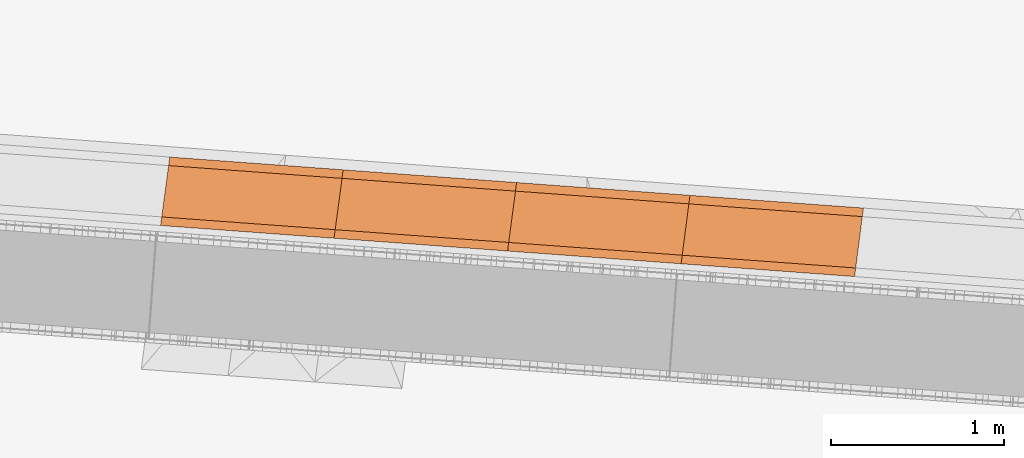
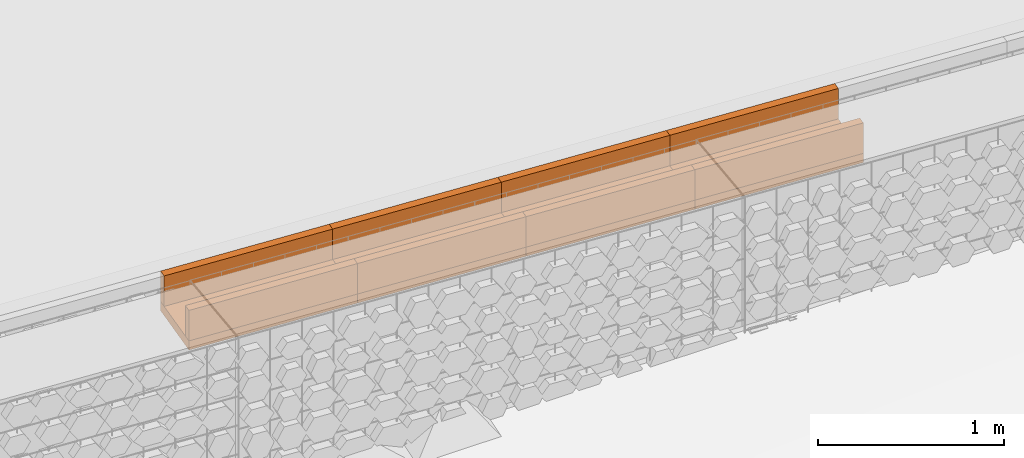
# Not in any storey, part 27 of 45: 12 proxies.
"""IFC4 model written with IfcOpenShell, lengths in metres."""

from ifc_helpers import new_model, si_unit, direction, frame, origin_with_axes, place, context, subcontext, project, spatial, polygons, material, element, save


model = new_model("IFC4")

# Units and contexts
model_context = context("Model", 3, precision=1e-05, world=origin_with_axes(), true_north=direction((0.0, 1.0)))
body_context = subcontext(model_context, "Body", "Model", "MODEL_VIEW")
ifc_project = project(units=[si_unit("VOLUMEUNIT", "CUBIC_METRE"), si_unit("LENGTHUNIT", "METRE"), si_unit("AREAUNIT", "SQUARE_METRE")], contexts=[model_context])

# Site
site_placement = place(None, origin_with_axes())
site = spatial("IfcSite", under=ifc_project, at=site_placement, Name="Lares · Rua das Mercês · artigo 4771")

# Proxies
ifc_material = material(Name="Caleiras · betão", Category="concrete")
proxy_1_placement = place(site_placement, frame((0.0, 0.0, 0.0), z_axis=(0.0, 0.0, 1.0), x_axis=(1.0, -1.03767253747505e-17, 0.0)))
element("IfcBuildingElementProxy", 1, at=proxy_1_placement, inside=site, material=ifc_material, Name="Acesso · canal lateral", ObjectType="Acesso · canal lateral", PredefinedType="USERDEFINED", context=body_context, shape_type="Tessellation", body=[
    polygons([(58.6276260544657, 1.86048415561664, 15.23), (58.6806627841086, 2.25695244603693, 15.23), (59.6853417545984, 2.18307205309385, 15.231), (59.6323050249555, 1.78660376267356, 15.231), (58.6276260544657, 1.86048415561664, 15.29), (58.6806627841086, 2.25695244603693, 15.29), (59.6853417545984, 2.18307205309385, 15.291), (59.6323050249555, 1.78660376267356, 15.291)], [[[4, 3, 2, 1]], [[5, 6, 7, 8]], [[1, 2, 6, 5]], [[2, 3, 7, 6]], [[3, 4, 8, 7]], [[4, 1, 5, 8]]]),
])
proxy_2_placement = place(site_placement, frame((0.0, 0.0, 0.0), z_axis=(0.0, 0.0, 1.0), x_axis=(1.0, -1.03767253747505e-17, 0.0)))
element("IfcBuildingElementProxy", 2, at=proxy_2_placement, inside=site, material=ifc_material, Name="Acesso · canal lateral", ObjectType="Acesso · canal lateral", PredefinedType="USERDEFINED", context=body_context, shape_type="Tessellation", body=[
    polygons([(58.6276260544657, 1.86048415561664, 15.29), (58.6342556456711, 1.91004269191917, 15.29), (59.6389346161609, 1.8361622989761, 15.291), (59.6323050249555, 1.78660376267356, 15.291), (58.6276260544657, 1.86048415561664, 15.49), (58.6342556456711, 1.91004269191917, 15.49), (59.6389346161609, 1.8361622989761, 15.491), (59.6323050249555, 1.78660376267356, 15.491)], [[[4, 3, 2, 1]], [[5, 6, 7, 8]], [[1, 2, 6, 5]], [[2, 3, 7, 6]], [[3, 4, 8, 7]], [[4, 1, 5, 8]]]),
])
proxy_3_placement = place(site_placement, frame((0.0, 0.0, 0.0), z_axis=(0.0, 0.0, 1.0), x_axis=(1.0, -1.03767253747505e-17, 0.0)))
element("IfcBuildingElementProxy", 3, at=proxy_3_placement, inside=site, material=ifc_material, Name="Acesso · canal lateral", ObjectType="Acesso · canal lateral", PredefinedType="USERDEFINED", context=body_context, shape_type="Tessellation", body=[
    polygons([(58.6740331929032, 2.20739390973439, 15.29), (58.6806627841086, 2.25695244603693, 15.29), (59.6853417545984, 2.18307205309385, 15.291), (59.678712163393, 2.13351351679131, 15.291), (58.6740331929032, 2.20739390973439, 15.49), (58.6806627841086, 2.25695244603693, 15.49), (59.6853417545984, 2.18307205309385, 15.491), (59.678712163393, 2.13351351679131, 15.491)], [[[4, 3, 2, 1]], [[5, 6, 7, 8]], [[1, 2, 6, 5]], [[2, 3, 7, 6]], [[3, 4, 8, 7]], [[4, 1, 5, 8]]]),
])
proxy_4_placement = place(site_placement, frame((0.0, 0.0, 0.0), z_axis=(0.0, 0.0, 1.0), x_axis=(1.0, -1.03767253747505e-17, 0.0)))
element("IfcBuildingElementProxy", 4, at=proxy_4_placement, inside=site, material=ifc_material, Name="Acesso · canal lateral", ObjectType="Acesso · canal lateral", PredefinedType="USERDEFINED", context=body_context, shape_type="Tessellation", body=[
    polygons([(59.6325935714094, 1.78656537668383, 15.231), (59.6850532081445, 2.18311043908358, 15.231), (60.689742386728, 2.10922924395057, 15.232), (60.637282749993, 1.71268418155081, 15.232), (59.6325935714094, 1.78656537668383, 15.291), (59.6850532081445, 2.18311043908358, 15.291), (60.689742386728, 2.10922924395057, 15.292), (60.637282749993, 1.71268418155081, 15.292)], [[[4, 3, 2, 1]], [[5, 6, 7, 8]], [[1, 2, 6, 5]], [[2, 3, 7, 6]], [[3, 4, 8, 7]], [[4, 1, 5, 8]]]),
])
proxy_5_placement = place(site_placement, frame((0.0, 0.0, 0.0), z_axis=(0.0, 0.0, 1.0), x_axis=(1.0, -1.03767253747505e-17, 0.0)))
element("IfcBuildingElementProxy", 5, at=proxy_5_placement, inside=site, material=ifc_material, Name="Acesso · canal lateral", ObjectType="Acesso · canal lateral", PredefinedType="USERDEFINED", context=body_context, shape_type="Tessellation", body=[
    polygons([(59.6325935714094, 1.78656537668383, 15.291), (59.6391510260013, 1.8361335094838, 15.291), (60.6438402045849, 1.76225231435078, 15.292), (60.637282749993, 1.71268418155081, 15.292), (59.6325935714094, 1.78656537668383, 15.491), (59.6391510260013, 1.8361335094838, 15.491), (60.6438402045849, 1.76225231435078, 15.492), (60.637282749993, 1.71268418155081, 15.492)], [[[4, 3, 2, 1]], [[5, 6, 7, 8]], [[1, 2, 6, 5]], [[2, 3, 7, 6]], [[3, 4, 8, 7]], [[4, 1, 5, 8]]]),
])
proxy_6_placement = place(site_placement, frame((0.0, 0.0, 0.0), z_axis=(0.0, 0.0, 1.0), x_axis=(1.0, -1.03767253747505e-17, 0.0)))
element("IfcBuildingElementProxy", 6, at=proxy_6_placement, inside=site, material=ifc_material, Name="Acesso · canal lateral", ObjectType="Acesso · canal lateral", PredefinedType="USERDEFINED", context=body_context, shape_type="Tessellation", body=[
    polygons([(59.6784957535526, 2.13354230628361, 15.291), (59.6850532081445, 2.18311043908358, 15.291), (60.689742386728, 2.10922924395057, 15.292), (60.6831849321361, 2.0596611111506, 15.292), (59.6784957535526, 2.13354230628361, 15.491), (59.6850532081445, 2.18311043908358, 15.491), (60.689742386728, 2.10922924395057, 15.492), (60.6831849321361, 2.0596611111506, 15.492)], [[[4, 3, 2, 1]], [[5, 6, 7, 8]], [[1, 2, 6, 5]], [[2, 3, 7, 6]], [[3, 4, 8, 7]], [[4, 1, 5, 8]]]),
])
proxy_7_placement = place(site_placement, frame((0.0, 0.0, 0.0), z_axis=(0.0, 0.0, 1.0), x_axis=(1.0, -1.03767253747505e-17, 0.0)))
element("IfcBuildingElementProxy", 7, at=proxy_7_placement, inside=site, material=ifc_material, Name="Acesso · canal lateral", ObjectType="Acesso · canal lateral", PredefinedType="USERDEFINED", context=body_context, shape_type="Tessellation", body=[
    polygons([(60.6375793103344, 1.71264517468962, 15.232), (60.6894458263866, 2.10926825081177, 15.232), (61.6941456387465, 2.03538624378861, 15.233), (61.6422791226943, 1.63876316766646, 15.233), (60.6375793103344, 1.71264517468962, 15.292), (60.6894458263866, 2.10926825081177, 15.292), (61.6941456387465, 2.03538624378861, 15.293), (61.6422791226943, 1.63876316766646, 15.293)], [[[4, 3, 2, 1]], [[5, 6, 7, 8]], [[1, 2, 6, 5]], [[2, 3, 7, 6]], [[3, 4, 8, 7]], [[4, 1, 5, 8]]]),
])
proxy_8_placement = place(site_placement, frame((0.0, 0.0, 0.0), z_axis=(0.0, 0.0, 1.0), x_axis=(1.0, -1.03767253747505e-17, 0.0)))
element("IfcBuildingElementProxy", 8, at=proxy_8_placement, inside=site, material=ifc_material, Name="Acesso · canal lateral", ObjectType="Acesso · canal lateral", PredefinedType="USERDEFINED", context=body_context, shape_type="Tessellation", body=[
    polygons([(60.6375793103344, 1.71264517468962, 15.292), (60.6440626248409, 1.76222305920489, 15.292), (61.6487624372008, 1.68834105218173, 15.293), (61.6422791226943, 1.63876316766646, 15.293), (60.6375793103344, 1.71264517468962, 15.492), (60.6440626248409, 1.76222305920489, 15.492), (61.6487624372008, 1.68834105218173, 15.493), (61.6422791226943, 1.63876316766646, 15.493)], [[[4, 3, 2, 1]], [[5, 6, 7, 8]], [[1, 2, 6, 5]], [[2, 3, 7, 6]], [[3, 4, 8, 7]], [[4, 1, 5, 8]]]),
])
proxy_9_placement = place(site_placement, frame((0.0, 0.0, 0.0), z_axis=(0.0, 0.0, 1.0), x_axis=(1.0, -1.03767253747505e-17, 0.0)))
element("IfcBuildingElementProxy", 9, at=proxy_9_placement, inside=site, material=ifc_material, Name="Acesso · canal lateral", ObjectType="Acesso · canal lateral", PredefinedType="USERDEFINED", context=body_context, shape_type="Tessellation", body=[
    polygons([(60.6829625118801, 2.0596903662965, 15.292), (60.6894458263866, 2.10926825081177, 15.292), (61.6941456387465, 2.03538624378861, 15.293), (61.68766232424, 1.98580835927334, 15.293), (60.6829625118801, 2.0596903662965, 15.492), (60.6894458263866, 2.10926825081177, 15.492), (61.6941456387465, 2.03538624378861, 15.493), (61.68766232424, 1.98580835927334, 15.493)], [[[4, 3, 2, 1]], [[5, 6, 7, 8]], [[1, 2, 6, 5]], [[2, 3, 7, 6]], [[3, 4, 8, 7]], [[4, 1, 5, 8]]]),
])
proxy_10_placement = place(site_placement, frame((0.0, 0.0, 0.0), z_axis=(0.0, 0.0, 1.0), x_axis=(1.0, -1.03767253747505e-17, 0.0)))
element("IfcBuildingElementProxy", 10, at=proxy_10_placement, inside=site, material=ifc_material, Name="Acesso · canal lateral", ObjectType="Acesso · canal lateral", PredefinedType="USERDEFINED", context=body_context, shape_type="Tessellation", body=[
    polygons([(61.6425840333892, 1.63872353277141, 15.233), (61.6938407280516, 2.03542587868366, 15.233), (62.6985516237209, 1.9615430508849, 15.234), (62.6472949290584, 1.56484070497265, 15.234), (61.6425840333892, 1.63872353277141, 15.293), (61.6938407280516, 2.03542587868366, 15.293), (62.6985516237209, 1.9615430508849, 15.294), (62.6472949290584, 1.56484070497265, 15.294)], [[[4, 3, 2, 1]], [[5, 6, 7, 8]], [[1, 2, 6, 5]], [[2, 3, 7, 6]], [[3, 4, 8, 7]], [[4, 1, 5, 8]]]),
])
proxy_11_placement = place(site_placement, frame((0.0, 0.0, 0.0), z_axis=(0.0, 0.0, 1.0), x_axis=(1.0, -1.03767253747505e-17, 0.0)))
element("IfcBuildingElementProxy", 11, at=proxy_11_placement, inside=site, material=ifc_material, Name="Acesso · canal lateral", ObjectType="Acesso · canal lateral", PredefinedType="USERDEFINED", context=body_context, shape_type="Tessellation", body=[
    polygons([(61.6425840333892, 1.63872353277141, 15.293), (61.648991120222, 1.68831132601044, 15.293), (62.6537020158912, 1.61442849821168, 15.294), (62.6472949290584, 1.56484070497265, 15.294), (61.6425840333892, 1.63872353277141, 15.493), (61.648991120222, 1.68831132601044, 15.493), (62.6537020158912, 1.61442849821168, 15.494), (62.6472949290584, 1.56484070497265, 15.494)], [[[4, 3, 2, 1]], [[5, 6, 7, 8]], [[1, 2, 6, 5]], [[2, 3, 7, 6]], [[3, 4, 8, 7]], [[4, 1, 5, 8]]]),
])
proxy_12_placement = place(site_placement, frame((0.0, 0.0, 0.0), z_axis=(0.0, 0.0, 1.0), x_axis=(1.0, -1.03767253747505e-17, 0.0)))
element("IfcBuildingElementProxy", 12, at=proxy_12_placement, inside=site, material=ifc_material, Name="Acesso · canal lateral", ObjectType="Acesso · canal lateral", PredefinedType="USERDEFINED", context=body_context, shape_type="Tessellation", body=[
    polygons([(61.6874336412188, 1.98583808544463, 15.293), (61.6938407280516, 2.03542587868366, 15.293), (62.6985516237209, 1.9615430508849, 15.294), (62.692144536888, 1.91195525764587, 15.294), (61.6874336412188, 1.98583808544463, 15.493), (61.6938407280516, 2.03542587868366, 15.493), (62.6985516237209, 1.9615430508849, 15.494), (62.692144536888, 1.91195525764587, 15.494)], [[[4, 3, 2, 1]], [[5, 6, 7, 8]], [[1, 2, 6, 5]], [[2, 3, 7, 6]], [[3, 4, 8, 7]], [[4, 1, 5, 8]]]),
])

save(model, "model.ifc")
